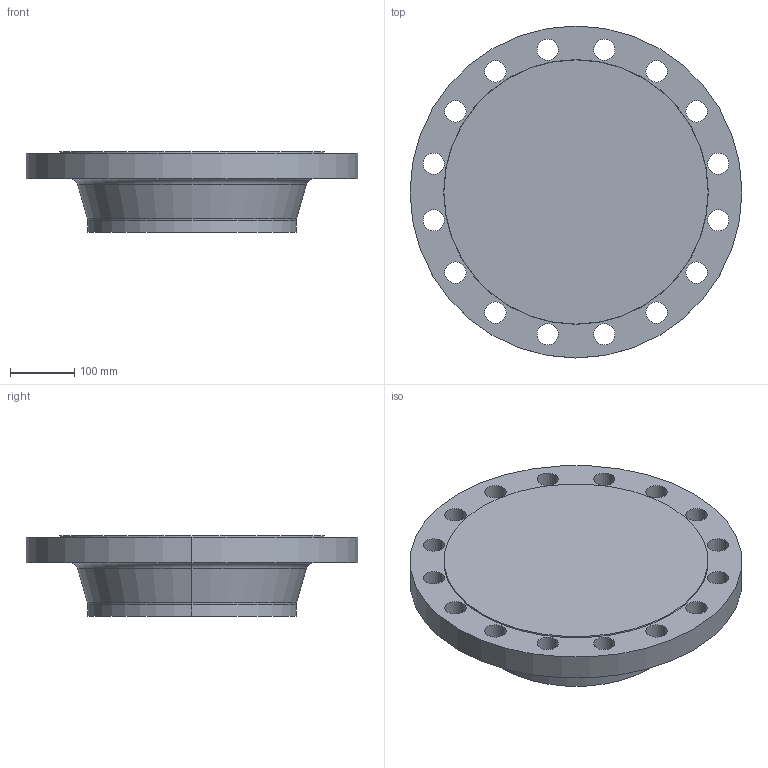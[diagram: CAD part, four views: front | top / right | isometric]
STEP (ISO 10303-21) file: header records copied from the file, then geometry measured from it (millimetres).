
FILE_DESCRIPTION (( 'STEP AP214' ), '1' );
FILE_NAME ('PN40 DN300 Type 21(ii) - Type B Face.STEP', '2019-01-05T18:59:51', ( '' ), ( '' ), 'SwSTEP 2.0', 'SolidWorks 2019', '' );
FILE_SCHEMA (( 'AUTOMOTIVE_DESIGN' ));
Length unit declared in the file: millimetre
Products named in the file (1): PN40 DN300 Type 21(ii) - Type B Face
Bounding box: 515 x 515 x 125 mm (x, y, z)
Volume: 15507172 mm3; surface area: 590959.4 mm2
Topology: 1 solids, 1 shells, 48 faces, 126 edges, 82 vertices
Faces by surface type: cylinder 36, torus 4, cone 4, plane 4
Entity records: 1626 total; most frequent: DIRECTION 310, CARTESIAN_POINT 257, ORIENTED_EDGE 252, AXIS2_PLACEMENT_3D 135, EDGE_CURVE 126, CIRCLE 86, VERTEX_POINT 82, EDGE_LOOP 82
